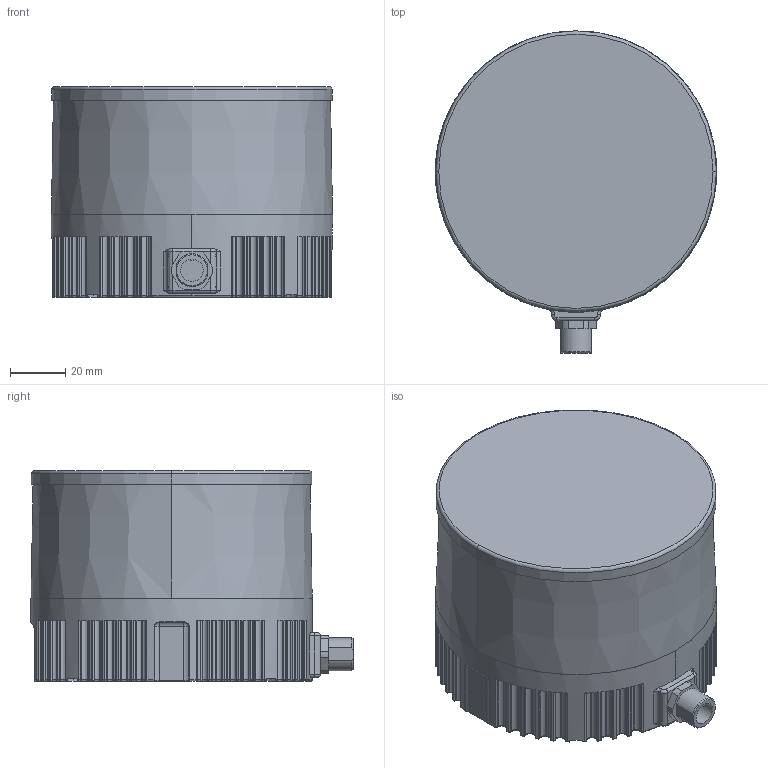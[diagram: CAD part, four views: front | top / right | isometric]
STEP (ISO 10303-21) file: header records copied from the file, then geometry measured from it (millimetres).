
FILE_DESCRIPTION((''),'2;1');
FILE_NAME('C32-V5-SHELL_ASM_32_ASM_17_ASM__ASM','2024-09-13T15:16:55',('huachen'),('Globeunion.com'),'CREO PARAMETRIC BY PTC INC, 2016510','CREO PARAMETRIC BY PTC INC, 2016510','');
FILE_SCHEMA(('AUTOMOTIVE_DESIGN { 1 0 10303 214 1 1 1 1 }'));
Length unit declared in the file: millimetre
Products named in the file (9): C32-V5-SHELL_1_1_1; LS-102-SU-JIAN-2021-2-25_22_1_1; E_009_00951__11_78_1_40; E_009_00951__11_78_ASM_1_ASM; M12-Z08A79D_1_1_2_2; M3X6; PLUGGING-CAP; E01000428-2_17_1_1; C32-V5-SHELL_ASM_32_ASM_17_ASM__ASM
Assembly tree (8 placements, depth 3):
  C32-V5-SHELL_ASM_32_ASM_17_ASM__ASM
    C32-V5-SHELL_1_1_1
    LS-102-SU-JIAN-2021-2-25_22_1_1
    E_009_00951__11_78_ASM_1_ASM
      E_009_00951__11_78_1_40
    M12-Z08A79D_1_1_2_2
    M3X6
    PLUGGING-CAP
    E01000428-2_17_1_1
Bounding box: 102.04 x 116.8 x 76.4 mm (x, y, z)
Volume: 111921.2 mm3; surface area: 108157.9 mm2
Topology: 6 solids, 6 shells, 1288 faces, 3442 edges, 2143 vertices
Faces by surface type: cylinder 605, plane 410, torus 137, sphere 74, cone 38, bspline 22, extrusion 2
Entity records: 43699 total; most frequent: CARTESIAN_POINT 9735, DIRECTION 7444, ORIENTED_EDGE 6740, EDGE_CURVE 3370, AXIS2_PLACEMENT_3D 2971, VERTEX_POINT 2143, CIRCLE 1689, VECTOR 1502
